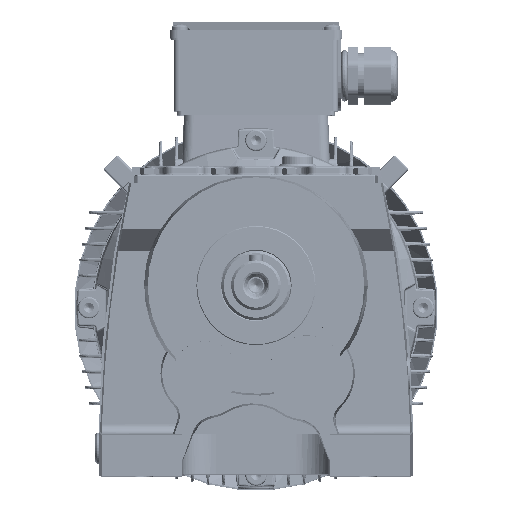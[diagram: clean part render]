
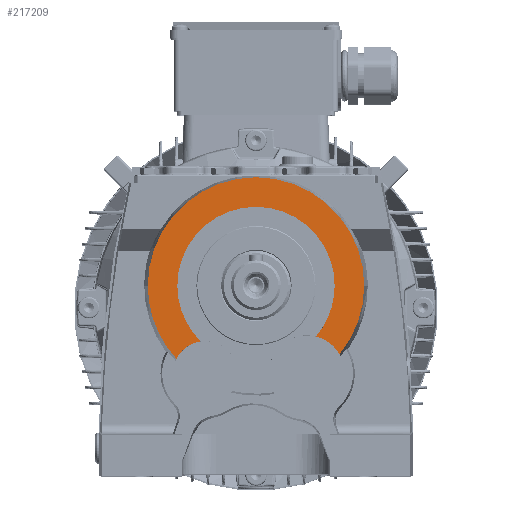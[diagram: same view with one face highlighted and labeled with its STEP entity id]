
A CAD part, top view. The second image highlights one B-rep face of the part: STEP entity #217209.
In plain terms, the highlighted planar face has unit normal (0, 0, 1).
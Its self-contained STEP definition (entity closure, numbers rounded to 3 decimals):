
#6 = CIRCLE ( 'NONE', #87465, 65.351 ) ;
#40 = CIRCLE ( 'NONE', #87462, 47.5 ) ;
#254 = CIRCLE ( 'NONE', #87808, 19.5 ) ;
#4923 = CARTESIAN_POINT ( 'NONE',  ( 0., 0., 103. ) ) ;
#5017 = DIRECTION ( 'NONE',  ( -1., 0., 0. ) ) ;
#5047 = DIRECTION ( 'NONE',  ( 0., 0., -1. ) ) ;
#5123 = DIRECTION ( 'NONE',  ( 0., 0., -1. ) ) ;
#5172 = DIRECTION ( 'NONE',  ( -1., 0., 0. ) ) ;
#5177 = CARTESIAN_POINT ( 'NONE',  ( 0., 0., 103. ) ) ;
#7095 = CARTESIAN_POINT ( 'NONE',  ( -30.662, -53.076, 103. ) ) ;
#7133 = DIRECTION ( 'NONE',  ( 0., 0., -1. ) ) ;
#7209 = DIRECTION ( 'NONE',  ( -1., 0., 0. ) ) ;
#63418 = AXIS2_PLACEMENT_3D ( 'NONE', #246543, #246548, #246555 ) ;
#87462 = AXIS2_PLACEMENT_3D ( 'NONE', #4923, #5047, #5017 ) ;
#87465 = AXIS2_PLACEMENT_3D ( 'NONE', #5177, #5123, #5172 ) ;
#87808 = AXIS2_PLACEMENT_3D ( 'NONE', #7095, #7133, #7209 ) ;
#108558 = VERTEX_POINT ( 'NONE', #135710 ) ;
#108573 = VERTEX_POINT ( 'NONE', #135699 ) ;
#108597 = VERTEX_POINT ( 'NONE', #135688 ) ;
#108653 = VERTEX_POINT ( 'NONE', #135740 ) ;
#111776 = VERTEX_POINT ( 'NONE', #136496 ) ;
#111782 = VERTEX_POINT ( 'NONE', #136512 ) ;
#111836 = VERTEX_POINT ( 'NONE', #136547 ) ;
#111844 = VERTEX_POINT ( 'NONE', #136569 ) ;
#116033 = EDGE_LOOP ( 'NONE', ( #124561, #124557, #124648, #124618, #124607, #124285, #124519, #124572 ) ) ;
#124285 = ORIENTED_EDGE ( 'NONE', *, *, #253986, .T. ) ;
#124519 = ORIENTED_EDGE ( 'NONE', *, *, #141654, .F. ) ;
#124557 = ORIENTED_EDGE ( 'NONE', *, *, #141973, .T. ) ;
#124561 = ORIENTED_EDGE ( 'NONE', *, *, #253723, .F. ) ;
#124572 = ORIENTED_EDGE ( 'NONE', *, *, #253883, .F. ) ;
#124607 = ORIENTED_EDGE ( 'NONE', *, *, #141631, .T. ) ;
#124618 = ORIENTED_EDGE ( 'NONE', *, *, #253976, .T. ) ;
#124648 = ORIENTED_EDGE ( 'NONE', *, *, #254071, .T. ) ;
#135688 = CARTESIAN_POINT ( 'NONE',  ( 47.5, 0., 103. ) ) ;
#135699 = CARTESIAN_POINT ( 'NONE',  ( 50.494, -41.487, 103. ) ) ;
#135710 = CARTESIAN_POINT ( 'NONE',  ( -47.5, 0., 103. ) ) ;
#135740 = CARTESIAN_POINT ( 'NONE',  ( -33.404, -33.77, 103. ) ) ;
#136496 = CARTESIAN_POINT ( 'NONE',  ( -48.065, -44.278, 103. ) ) ;
#136512 = CARTESIAN_POINT ( 'NONE',  ( 36.184, -30.773, 103. ) ) ;
#136547 = CARTESIAN_POINT ( 'NONE',  ( 65.351, 0., 103. ) ) ;
#136569 = CARTESIAN_POINT ( 'NONE',  ( -65.351, 0., 103. ) ) ;
#137476 = AXIS2_PLACEMENT_3D ( 'NONE', #232071, #232066, #232011 ) ;
#137527 = AXIS2_PLACEMENT_3D ( 'NONE', #231176, #231100, #231193 ) ;
#137555 = AXIS2_PLACEMENT_3D ( 'NONE', #232262, #232310, #232377 ) ;
#137562 = AXIS2_PLACEMENT_3D ( 'NONE', #232508, #232624, #232600 ) ;
#137610 = AXIS2_PLACEMENT_3D ( 'NONE', #232108, #232302, #232305 ) ;
#141631 = EDGE_CURVE ( 'NONE', #108597, #111782, #40, .T. ) ;
#141654 = EDGE_CURVE ( 'NONE', #111836, #108573, #6, .T. ) ;
#141973 = EDGE_CURVE ( 'NONE', #111776, #108653, #254, .T. ) ;
#217209 = ADVANCED_FACE ( 'NONE', ( #252290 ), #246607, .T. ) ;
#229283 = CIRCLE ( 'NONE', #137527, 65.351 ) ;
#229358 = CIRCLE ( 'NONE', #137610, 47.5 ) ;
#229400 = CIRCLE ( 'NONE', #137476, 65.351 ) ;
#229426 = CIRCLE ( 'NONE', #137555, 23. ) ;
#229513 = CIRCLE ( 'NONE', #137562, 47.5 ) ;
#231100 = DIRECTION ( 'NONE',  ( 0., 0., -1. ) ) ;
#231176 = CARTESIAN_POINT ( 'NONE',  ( 0., 0., 103. ) ) ;
#231193 = DIRECTION ( 'NONE',  ( -1., 0., 0. ) ) ;
#232011 = DIRECTION ( 'NONE',  ( -1., 0., 0. ) ) ;
#232066 = DIRECTION ( 'NONE',  ( 0., 0., -1. ) ) ;
#232071 = CARTESIAN_POINT ( 'NONE',  ( 0., 0., 103. ) ) ;
#232108 = CARTESIAN_POINT ( 'NONE',  ( 0., 0., 103. ) ) ;
#232262 = CARTESIAN_POINT ( 'NONE',  ( 30.638, -53.094, 103. ) ) ;
#232302 = DIRECTION ( 'NONE',  ( 0., 0., -1. ) ) ;
#232305 = DIRECTION ( 'NONE',  ( -1., 0., 0. ) ) ;
#232310 = DIRECTION ( 'NONE',  ( 0., 0., -1. ) ) ;
#232377 = DIRECTION ( 'NONE',  ( -1., 0., 0. ) ) ;
#232508 = CARTESIAN_POINT ( 'NONE',  ( 0., 0., 103. ) ) ;
#232600 = DIRECTION ( 'NONE',  ( -1., 0., 0. ) ) ;
#232624 = DIRECTION ( 'NONE',  ( 0., 0., -1. ) ) ;
#246543 = CARTESIAN_POINT ( 'NONE',  ( 0., 0., 103. ) ) ;
#246548 = DIRECTION ( 'NONE',  ( 0., 0., 1. ) ) ;
#246555 = DIRECTION ( 'NONE',  ( 1., 0., 0. ) ) ;
#246607 = PLANE ( 'NONE',  #63418 ) ;
#252290 = FACE_OUTER_BOUND ( 'NONE', #116033, .T. ) ;
#253723 = EDGE_CURVE ( 'NONE', #111776, #111844, #229283, .T. ) ;
#253883 = EDGE_CURVE ( 'NONE', #111844, #111836, #229400, .T. ) ;
#253976 = EDGE_CURVE ( 'NONE', #108558, #108597, #229358, .T. ) ;
#253986 = EDGE_CURVE ( 'NONE', #111782, #108573, #229426, .T. ) ;
#254071 = EDGE_CURVE ( 'NONE', #108653, #108558, #229513, .T. ) ;
